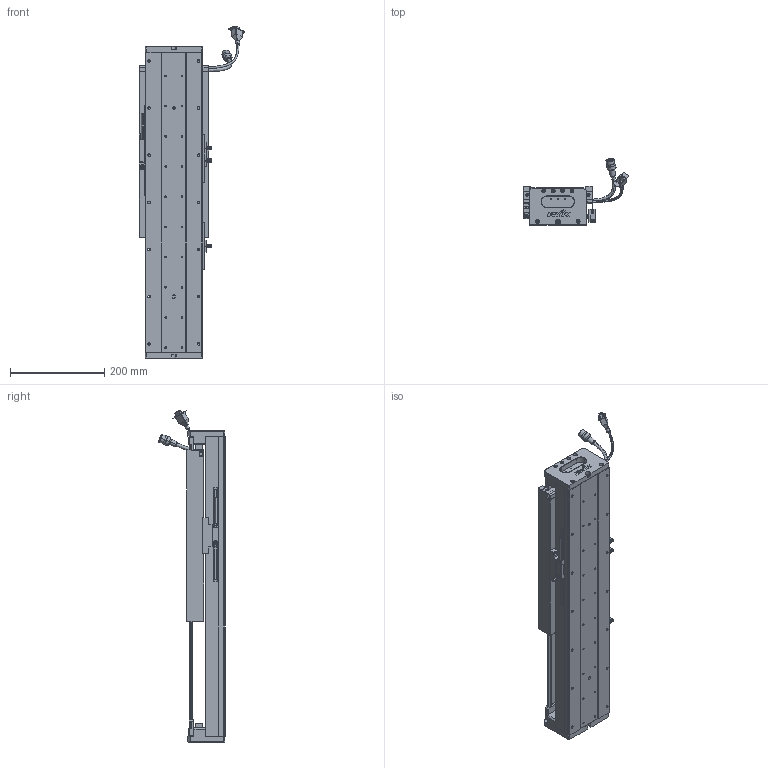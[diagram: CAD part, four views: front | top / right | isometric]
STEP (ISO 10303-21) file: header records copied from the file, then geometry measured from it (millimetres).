
FILE_DESCRIPTION (( 'STEP AP203' ), '1' );
FILE_NAME ('Z5-RY120D-1-L500-B-K.SLDASM_0200.step', '2021-05-17T06:20:55', ( '盈信电脑' ), ( '东莞市道滘镇水果街19号' ), 'SwSTEP 2.0', 'SolidWorks 2016', '' );
FILE_SCHEMA (( 'CONFIG_CONTROL_DESIGN' ));
Length unit declared in the file: millimetre
Products named in the file (37): SCREW-M1.6-3; Z5-RY120铝滑块（21款）; Z5-RY120-L500詩湍100mm遵_0200; 080黍杅芛假蚾釱21遴; SCREW-M1.6-2; Z-120詩湍傷裔啣; COVER; 覜茼ん672; LABEL; 672嫖萇羲壽假蚾釱; SCALE; PBU_SHEET; 140雄赽晤鎢ん堤盄; 140蚥薯蝶輸; SCALE-Part-1; SCREW-M1.6-1; SEAL-Part-1; SEAL; Z5-RY120-500-倰第菁釱_0200; PSLH080_PSLF2; SCREW-M1.7-1; Z5-RY120D-1-L500-B-K.SLDASM_0200; COVER-Part-1; LABEL-Part-1; SCREW-M1.6; 榋妏寠巭燃_暯_M2_2; SHIELDPLATE; RY100FB-遵嫖萇覜茼え; HOLDER0; SCREW-M1.7; Z-RY120D詩湍奻揤裔; SCALE-Part-2; HARNESS; Z-RY120D詩湍狟揤裔; HARNESS-Part-2; HARNESS-Part-1; 120-Z-臏賑輸盄裔(21遴)
Assembly tree (43 placements, depth 4):
  Z5-RY120D-1-L500-B-K.SLDASM_0200
    Z5-RY120-500-倰第菁釱_0200
    覜茼ん672  x3
    672嫖萇羲壽假蚾釱  x2
    Z5-RY120铝滑块（21款）
    PSLH080_PSLF2
      SCALE
        SCALE-Part-1
        SCALE-Part-2
      HARNESS
        HARNESS-Part-1
        HARNESS-Part-2
      LABEL
        LABEL-Part-1
      COVER
        COVER-Part-1
      SEAL
        SEAL-Part-1
      榋妏寠巭燃_暯_M2_2
      SHIELDPLATE
      SCREW-M1.7
      SCREW-M1.7-1
      PBU_SHEET
      SCREW-M1.6
      SCREW-M1.6-1
      SCREW-M1.6-2
      SCREW-M1.6-3
      HOLDER0
    080黍杅芛假蚾釱21遴
    120-Z-臏賑輸盄裔(21遴)
    140雄赽晤鎢ん堤盄
    140蚥薯蝶輸  x2
    RY100FB-遵嫖萇覜茼え
    Z-120詩湍傷裔啣  x2
    Z-RY120D詩湍奻揤裔  x2
    Z-RY120D詩湍狟揤裔  x2
    Z5-RY120-L500詩湍100mm遵_0200
Bounding box: 222.88 x 140.94 x 704 mm (x, y, z)
Volume: 2652594 mm3; surface area: 800148.9 mm2
Topology: 38 solids, 38 shells, 2681 faces, 7117 edges, 4502 vertices
Faces by surface type: cylinder 1199, plane 1106, cone 254, torus 69, bspline 53
Entity records: 77960 total; most frequent: CARTESIAN_POINT 19649, DIRECTION 11361, ORIENTED_EDGE 11250, EDGE_CURVE 5625, AXIS2_PLACEMENT_3D 4164, VERTEX_POINT 3622, VECTOR 3033, LINE 3033
